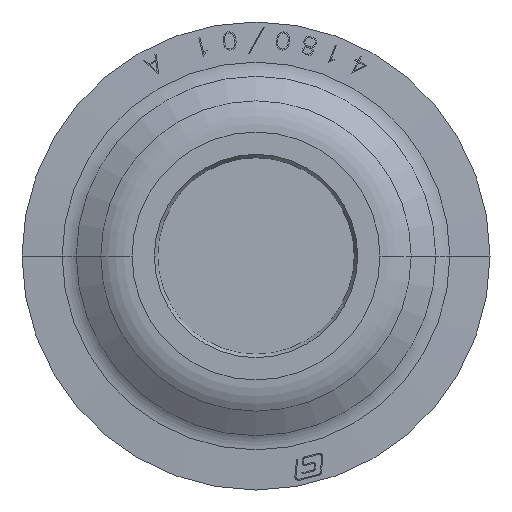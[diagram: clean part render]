
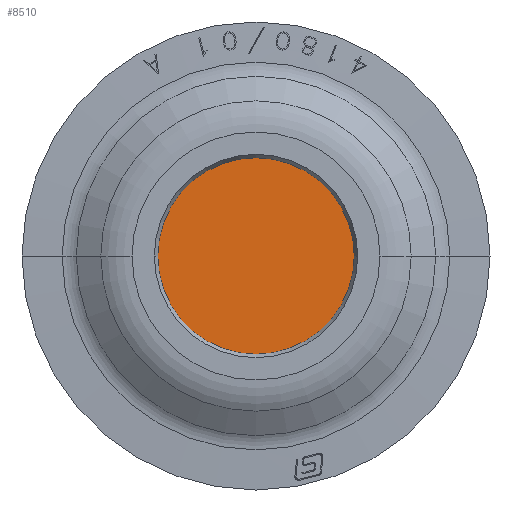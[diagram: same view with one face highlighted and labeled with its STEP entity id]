
A CAD part, front view. The second image highlights one B-rep face of the part: STEP entity #8510.
In plain terms, the highlighted planar face has unit normal (0, 1, 0).
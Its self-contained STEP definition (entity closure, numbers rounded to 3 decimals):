
#8399=CARTESIAN_POINT('',(0.,2.489,0.));
#8400=DIRECTION('',(0.,-1.,0.));
#8401=DIRECTION('',(1.,0.,0.));
#8402=AXIS2_PLACEMENT_3D('',#8399,#8400,#8401);
#8404=CARTESIAN_POINT('',(0.,2.489,0.));
#8405=DIRECTION('',(0.,1.,0.));
#8406=DIRECTION('',(1.,0.,0.));
#8407=AXIS2_PLACEMENT_3D('',#8404,#8405,#8406);
#8459=CARTESIAN_POINT('',(11.749,2.489,0.));
#8460=VERTEX_POINT('',#8459);
#8465=CARTESIAN_POINT('',(-11.749,2.489,0.));
#8466=VERTEX_POINT('',#8465);
#8501=CARTESIAN_POINT('',(0.,2.489,0.));
#8502=DIRECTION('',(0.,1.,0.));
#8503=DIRECTION('',(1.,0.,0.));
#8504=AXIS2_PLACEMENT_3D('',#8501,#8502,#8503);
#8505=PLANE('',#8504);
#8506=ORIENTED_EDGE('',*,*,#8482,.T.);
#8507=ORIENTED_EDGE('',*,*,#8493,.F.);
#8508=EDGE_LOOP('',(#8506,#8507));
#8509=FACE_OUTER_BOUND('',#8508,.F.);
#8510=ADVANCED_FACE('',(#8509),#8505,.T.);
#8403=CIRCLE('',#8402,11.749);
#8408=CIRCLE('',#8407,11.749);
#8482=EDGE_CURVE('',#8460,#8466,#8403,.T.);
#8493=EDGE_CURVE('',#8460,#8466,#8408,.T.);
